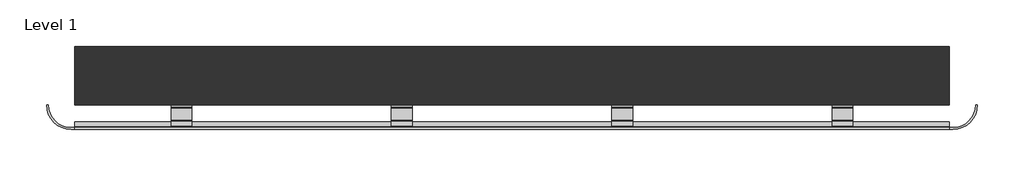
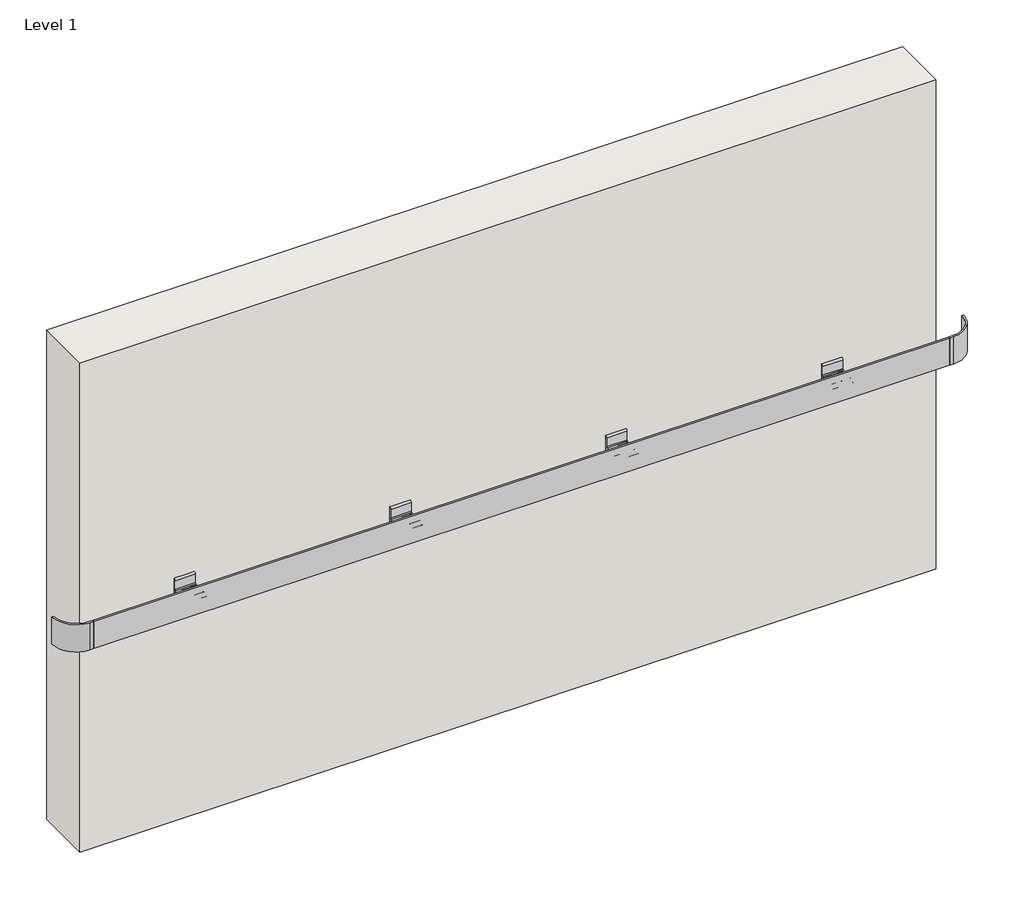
# One storey: 1 railing, 1 wall.
"""IFC4 building model written with IfcOpenShell, lengths in millimetres."""

from ifc_helpers import new_model, si_unit, origin, origin_with_axes, place, context, project, spatial, polyline, outline, extrude, transform, mapped, element, save
from components import railing_716fb8cc

model = new_model("IFC4")

# Units and contexts
model_context = context("Model", 3, world=origin())
ifc_project = project(units=[si_unit("LENGTHUNIT", "METRE", prefix="MILLI")], contexts=[model_context])

# Site, building, storey
site = spatial("IfcSite", under=ifc_project)
building = spatial("IfcBuilding", under=site)
storey = spatial("IfcBuildingStorey", under=building, Name="Level 1", Elevation=0.0)

# Railing
placement = place(None, origin())
railing_shape = railing_716fb8cc(model_context)
element("IfcRailing", 1, ObjectType="Wall Guard-InPro-50SS", at=placement, inside=storey, context=model_context, shape_type="MappedRepresentation", body=[
    mapped(railing_shape, transform((0.0, 0.0, 0.0), x_axis=(1.0, 0.0, 0.0), y_axis=(0.0, 1.0, 0.0), z_axis=(0.0, 0.0, 1.0))),
])

# Wall
element("IfcWall", 2, ObjectType="Wall 1", at=placement, inside=storey, context=model_context, shape_type="SweptSolid", body=[
    extrude(outline(polyline([(-3409.3119023, 6803.1093535), (-6431.9119023, 6803.1093535), (-6431.9119023, 7006.3093535), (-3409.3119023, 7006.3093535), (-3409.3119023, 6803.1093535)])), origin_with_axes(), (0.0, 0.0, 1.0), 1828.8),
])

save(model, "model.ifc")
